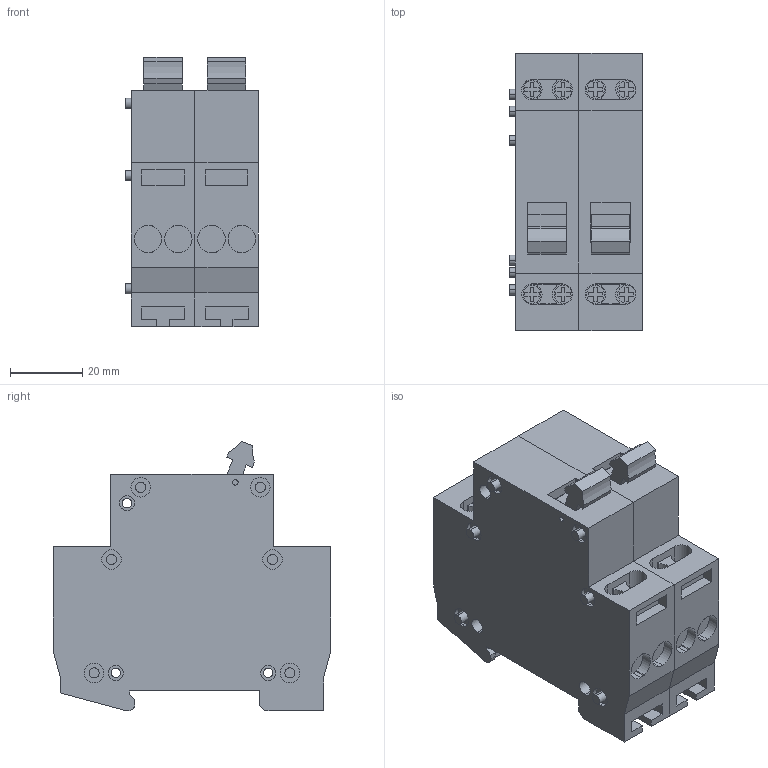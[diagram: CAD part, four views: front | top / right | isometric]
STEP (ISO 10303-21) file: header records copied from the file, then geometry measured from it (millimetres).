
FILE_DESCRIPTION((''),'2;1');
FILE_NAME('B103941_ASM','2013-06-19T',('SESA217760'),('Schneider-Electric'),'PRO/ENGINEER BY PARAMETRIC TECHNOLOGY CORPORATION, 2011410','PRO/ENGINEER BY PARAMETRIC TECHNOLOGY CORPORATION, 2011410','');
FILE_SCHEMA(('CONFIG_CONTROL_DESIGN'));
Length unit declared in the file: millimetre
Products named in the file (2): SB103941_2_1; B103941_ASM
Assembly tree (2 placements, depth 2):
  B103941_ASM
    SB103941_2_1  x2
Bounding box: 36.8 x 76.8 x 74.67 mm (x, y, z)
Volume: 139183.3 mm3; surface area: 32853.3 mm2
Topology: 2 solids, 2 shells, 532 faces, 1430 edges, 976 vertices
Faces by surface type: plane 370, cylinder 162
Entity records: 8484 total; most frequent: CARTESIAN_POINT 1473, DIRECTION 1453, ORIENTED_EDGE 1430, EDGE_CURVE 715, VECTOR 517, LINE 517, VERTEX_POINT 488, AXIS2_PLACEMENT_3D 468
